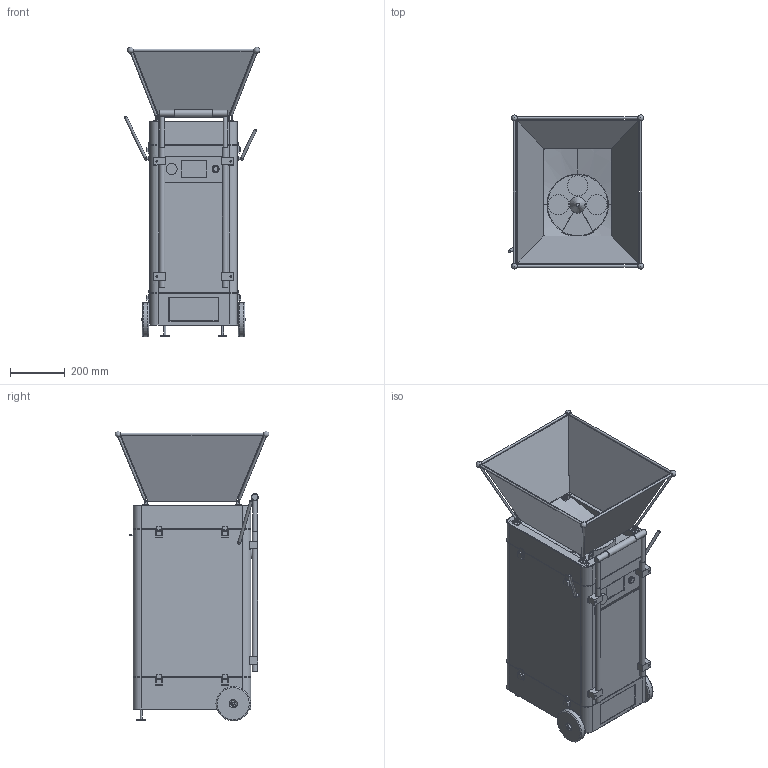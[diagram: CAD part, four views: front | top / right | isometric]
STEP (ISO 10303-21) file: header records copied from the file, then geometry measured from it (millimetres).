
FILE_DESCRIPTION(('Open CASCADE Model'),'2;1');
FILE_NAME('Open CASCADE Shape Model','2026-10-06T19:55:51',('Author'),( 'Open CASCADE'),'Open CASCADE STEP processor 7.9','Open CASCADE 7.9' ,'Unknown');
FILE_SCHEMA(('AUTOMOTIVE_DESIGN { 1 0 10303 214 1 1 1 1 }'));
Length unit declared in the file: millimetre
Products named in the file (227): lancador; andar_base; chapa_piso__1; poste_base__1; pino_centragem__1; bloco_pino__1; pino_centragem__2; bloco_pino__2; berco_bateria__1; bateria_makita__1; bateria_makita_topo__1; soquete_makita__1; berco_bateria__2; soquete_makita__2; caixa_ip65__1; placa_montagem__1; esp32_s3__1; driver_tmc2209__1; driver_tmc2209__2; driver_tmc2209__3; esc_60a__1; esc_60a__2; rele_k1__1; porta_fusiveis__1; conversor_buck__1; conversor_buck__2; conversor_buck__3; receptor_433__1; capacitor_1000uf__1; diodo_ideal__1; diodo_ideal__2; chave_eletronica__1; suporte_roda__1; roda_transporte__1; eixo_roda_transporte__1; pe_borracha__1; suporte_roda__2; roda_transporte__2; eixo_roda_transporte__2; pe_borracha__2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
Assembly tree (238 placements, depth 6):
  lancador
    andar_base
      chapa_piso__1
      poste_base__1  x4
      pino_centragem__1
      bloco_pino__1
      pino_centragem__2
      bloco_pino__2
      berco_bateria__1
      bateria_makita__1  x2
      bateria_makita_topo__1  x2
      soquete_makita__1
      berco_bateria__2
      soquete_makita__2
      caixa_ip65__1
      placa_montagem__1
      esp32_s3__1
      driver_tmc2209__1
      driver_tmc2209__2
      driver_tmc2209__3
      esc_60a__1
      esc_60a__2
      rele_k1__1
      porta_fusiveis__1
      conversor_buck__1
      conversor_buck__2
      conversor_buck__3
      receptor_433__1
      capacitor_1000uf__1
      diodo_ideal__1
      diodo_ideal__2
      chave_eletronica__1
      suporte_roda__1
      roda_transporte__1
      eixo_roda_transporte__1
      pe_borracha__1
      suporte_roda__2
      roda_transporte__2
      eixo_roda_transporte__2
      pe_borracha__2
      fecho_pressao__1
      fecho_pressao__2
      fecho_pressao__3
      fecho_pressao__4
      suporte_conectores__1
      suporte_conectores__2
      car_base
        carenagem_base__1
        tampa_baterias__1
    andar_lancador
      chapa_base_lancador__1
      lazy_susan__1
      poste_lancador__1  x4
      perfil_topo_lado__1
      perfil_topo_lado__2
      perfil_topo_frente__1
      perfil_topo_frente__2
      cantoneira_2020__1
      cantoneira_2020__2
      cantoneira_2020__3
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Bounding box: 494.17 x 561.84 x 1056 mm (x, y, z)
Volume: 15540604.4 mm3; surface area: 7379505.2 mm2
Topology: 300 solids, 301 shells, 3556 faces, 8499 edges, 5654 vertices
Faces by surface type: plane 2754, cylinder 758, bspline 18, torus 10, cone 9, sphere 7
Full cylindrical faces by diameter (mm): 0.02 x1, 2.8 x3, 3.4 x50, 4 x12, 4.2 x16, 4.4 x12, 4.5 x120, 5 x6, 5.1 x1, 5.2 x6, 5.5 x39, 6 x4, 6.1 x1, 6.2 x5, 6.4 x4, 6.8 x2, 7 x38, 7.8 x2, 8 x28, 8.1 x2, 8.2 x12, 8.4 x4, 8.5 x2, 9.2 x1, 10 x13, 10.4 x4, 12 x14, 13 x2, 13.2 x2, 14 x4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
Entity records: 200951 total; most frequent: CARTESIAN_POINT 42580, DIRECTION 28495, LINE 17487, VECTOR 17487, ORIENTED_EDGE 14882, PCURVE 14882, DEFINITIONAL_REPRESENTATION 14882, EDGE_CURVE 7441
